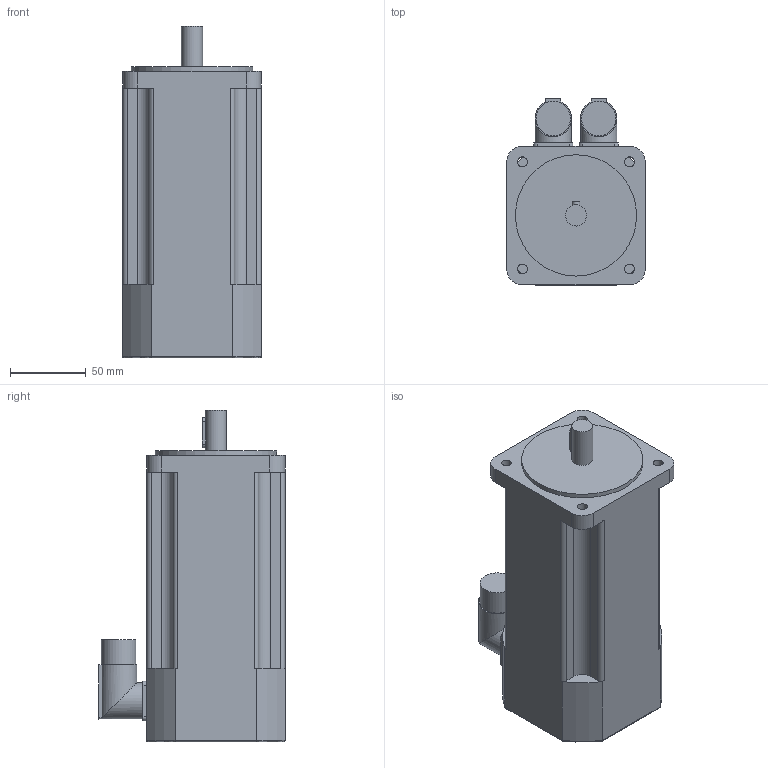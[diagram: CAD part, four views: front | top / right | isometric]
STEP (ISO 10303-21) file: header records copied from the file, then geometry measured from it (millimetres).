
FILE_DESCRIPTION(/* description */ (''),/* implementation_level */ '2;1');
FILE_NAME(/* name */ '\\Lafnas01\disegni\Archivi Lafert\3D\CAD 3D\MODELLI\Assiemi clienti\Serad\Modelli 3D Serad\B56Q\Encoder\Enc Without Brake\B56H5Qxx6ARx2033.ipt.stp',/* time_stamp */ '2015-09-07T10:50:15+02:00',/* author */ ('Pastrello Ylenia'),/* organization */ (''),/* preprocessor_version */ 'ST-DEVELOPER v15.6',/* originating_system */ 'Autodesk Inventor 2015',/* authorisation */ '');
FILE_SCHEMA (('AUTOMOTIVE_DESIGN { 1 0 10303 214 3 1 1 }'));
Length unit declared in the file: millimetre
Products named in the file (1): B56H5Qxx6ARx2033
Bounding box: 91.3 x 122.8 x 219 mm (x, y, z)
Volume: 1463703.9 mm3; surface area: 93096.5 mm2
Topology: 1 solids, 1 shells, 99 faces, 260 edges, 170 vertices
Faces by surface type: plane 49, cylinder 46, torus 4
Full cylindrical faces by diameter (mm): 6.5 x4, 14 x1, 22.7 x2, 24 x2, 80 x1
Entity records: 3176 total; most frequent: CARTESIAN_POINT 658, DIRECTION 534, ORIENTED_EDGE 500, EDGE_CURVE 250, AXIS2_PLACEMENT_3D 194, VERTEX_POINT 170, LINE 146, VECTOR 146
